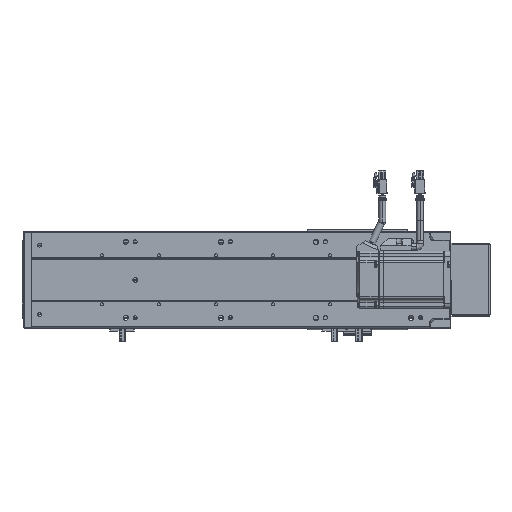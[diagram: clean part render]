
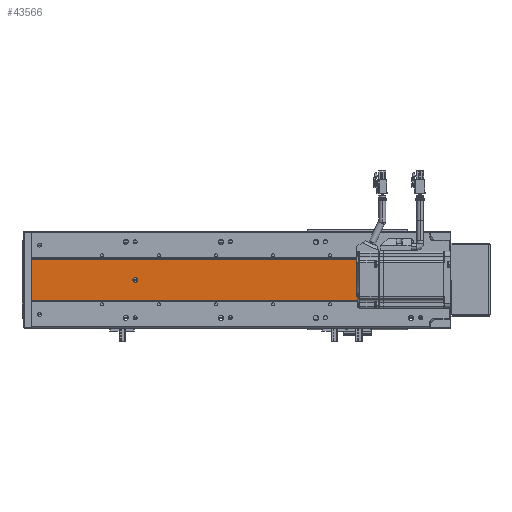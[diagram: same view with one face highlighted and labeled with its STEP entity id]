
A CAD part, front view. The second image highlights one B-rep face of the part: STEP entity #43566.
In plain terms, the highlighted planar face has unit normal (0, -1, 0).
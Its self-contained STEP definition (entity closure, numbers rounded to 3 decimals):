
#5576 = CARTESIAN_POINT ( 'NONE',  ( 118.817, 89.548, 419.698 ) ) ;
#5678 = CARTESIAN_POINT ( 'NONE',  ( 161.989, 89.548, 0. ) ) ;
#5722 = CARTESIAN_POINT ( 'NONE',  ( 118.817, 89.548, 426.302 ) ) ;
#5744 = CARTESIAN_POINT ( 'NONE',  ( 118.817, 89.548, 439. ) ) ;
#5764 = CARTESIAN_POINT ( 'NONE',  ( 161.989, 89.548, 439. ) ) ;
#5802 = CARTESIAN_POINT ( 'NONE',  ( 118.817, 89.548, 0. ) ) ;
#5806 = CARTESIAN_POINT ( 'NONE',  ( 118.817, 89.548, 429.698 ) ) ;
#6873 = CARTESIAN_POINT ( 'NONE',  ( 118.817, 89.548, 436.302 ) ) ;
#10917 = DIRECTION ( 'NONE',  ( 0., 0., -1. ) ) ;
#10944 = CARTESIAN_POINT ( 'NONE',  ( 161.989, 89.548, 439. ) ) ;
#11014 = CARTESIAN_POINT ( 'NONE',  ( 118.817, 89.548, 439. ) ) ;
#11015 = CARTESIAN_POINT ( 'NONE',  ( 161.989, 89.548, 0. ) ) ;
#11017 = DIRECTION ( 'NONE',  ( 0., 0., -1. ) ) ;
#11043 = DIRECTION ( 'NONE',  ( 1., 0., 0. ) ) ;
#11048 = CARTESIAN_POINT ( 'NONE',  ( 115.403, 89.548, 433. ) ) ;
#11052 = DIRECTION ( 'NONE',  ( -1., 0., 0. ) ) ;
#11056 = CARTESIAN_POINT ( 'NONE',  ( 140.403, 89.548, 409. ) ) ;
#11060 = DIRECTION ( 'NONE',  ( 0., 1., 0. ) ) ;
#11064 = CARTESIAN_POINT ( 'NONE',  ( 115.403, 89.548, 423. ) ) ;
#11065 = DIRECTION ( 'NONE',  ( 0., -1., 0. ) ) ;
#11069 = DIRECTION ( 'NONE',  ( 0., 1., 0. ) ) ;
#11076 = DIRECTION ( 'NONE',  ( 1., 0., 0. ) ) ;
#11081 = DIRECTION ( 'NONE',  ( -1., 0., 0. ) ) ;
#11083 = CARTESIAN_POINT ( 'NONE',  ( 140.403, 89.548, 109. ) ) ;
#11114 = DIRECTION ( 'NONE',  ( 1., 0., 0. ) ) ;
#11123 = DIRECTION ( 'NONE',  ( 0., -1., 0. ) ) ;
#11699 = EDGE_CURVE ( 'NONE', #72541, #72501, #33224, .T. ) ;
#12162 = EDGE_CURVE ( 'NONE', #72501, #71986, #22711, .T. ) ;
#12184 = EDGE_CURVE ( 'NONE', #72443, #72400, #22625, .T. ) ;
#12190 = EDGE_CURVE ( 'NONE', #72541, #84155, #22661, .T. ) ;
#12214 = EDGE_CURVE ( 'NONE', #72315, #72299, #22715, .T. ) ;
#12220 = EDGE_CURVE ( 'NONE', #84155, #72525, #22688, .T. ) ;
#12222 = EDGE_CURVE ( 'NONE', #72461, #72398, #22646, .T. ) ;
#12241 = EDGE_CURVE ( 'NONE', #72300, #72276, #22902, .T. ) ;
#22625 = LINE ( 'NONE', #11015, #22780 ) ;
#22646 = CIRCLE ( 'NONE', #31158, 4.75 ) ;
#22661 = LINE ( 'NONE', #11014, #22741 ) ;
#22688 = CIRCLE ( 'NONE', #31229, 4.75 ) ;
#22711 = LINE ( 'NONE', #10944, #22791 ) ;
#22715 = CIRCLE ( 'NONE', #31208, 2.5 ) ;
#22741 = VECTOR ( 'NONE', #11017, 1000. ) ;
#22780 = VECTOR ( 'NONE', #11043, 1000. ) ;
#22791 = VECTOR ( 'NONE', #10917, 1000. ) ;
#22902 = CIRCLE ( 'NONE', #31134, 2.5 ) ;
#25568 = EDGE_CURVE ( 'NONE', #72108, #71986, #99872, .T. ) ;
#25574 = EDGE_CURVE ( 'NONE', #71999, #72048, #99900, .T. ) ;
#25717 = EDGE_CURVE ( 'NONE', #72299, #72315, #100072, .T. ) ;
#25725 = EDGE_CURVE ( 'NONE', #72276, #72300, #100082, .T. ) ;
#25818 = EDGE_CURVE ( 'NONE', #72525, #72461, #26744, .T. ) ;
#25823 = EDGE_CURVE ( 'NONE', #71999, #72400, #26712, .T. ) ;
#25826 = EDGE_CURVE ( 'NONE', #72398, #72443, #26713, .T. ) ;
#25856 = EDGE_CURVE ( 'NONE', #72108, #72048, #26691, .T. ) ;
#26691 = LINE ( 'NONE', #28576, #26702 ) ;
#26699 = VECTOR ( 'NONE', #28478, 1000. ) ;
#26702 = VECTOR ( 'NONE', #28556, 1000. ) ;
#26712 = LINE ( 'NONE', #28414, #26795 ) ;
#26713 = LINE ( 'NONE', #28467, #26699 ) ;
#26744 = LINE ( 'NONE', #28448, #26765 ) ;
#26765 = VECTOR ( 'NONE', #28423, 1000. ) ;
#26795 = VECTOR ( 'NONE', #28495, 1000. ) ;
#28414 = CARTESIAN_POINT ( 'NONE',  ( 161.989, 89.548, 439. ) ) ;
#28423 = DIRECTION ( 'NONE',  ( 0., 0., -1. ) ) ;
#28448 = CARTESIAN_POINT ( 'NONE',  ( 118.817, 89.548, 439. ) ) ;
#28467 = CARTESIAN_POINT ( 'NONE',  ( 118.817, 89.548, 439. ) ) ;
#28478 = DIRECTION ( 'NONE',  ( 0., 0., -1. ) ) ;
#28495 = DIRECTION ( 'NONE',  ( 0., 0., -1. ) ) ;
#28556 = DIRECTION ( 'NONE',  ( 0., 0., -1. ) ) ;
#28576 = CARTESIAN_POINT ( 'NONE',  ( 161.989, 89.548, 439. ) ) ;
#29598 = CARTESIAN_POINT ( 'NONE',  ( 161.989, 89.548, 439. ) ) ;
#29623 = DIRECTION ( 'NONE',  ( 1., 0., 0. ) ) ;
#30128 = DIRECTION ( 'NONE',  ( 1., 0., 0. ) ) ;
#30134 = DIRECTION ( 'NONE',  ( 0., -1., 0. ) ) ;
#30138 = CARTESIAN_POINT ( 'NONE',  ( 140.403, 89.548, 409. ) ) ;
#30161 = DIRECTION ( 'NONE',  ( 1., 0., 0. ) ) ;
#30168 = CARTESIAN_POINT ( 'NONE',  ( 140.403, 89.548, 109. ) ) ;
#30169 = DIRECTION ( 'NONE',  ( 0., -1., 0. ) ) ;
#30761 = DIRECTION ( 'NONE',  ( -1., 0., 0. ) ) ;
#30768 = DIRECTION ( 'NONE',  ( 0., 1., 0. ) ) ;
#30776 = CARTESIAN_POINT ( 'NONE',  ( 165.403, 89.548, 433. ) ) ;
#30781 = DIRECTION ( 'NONE',  ( 0., 1., 0. ) ) ;
#30797 = CARTESIAN_POINT ( 'NONE',  ( 165.403, 89.548, 423. ) ) ;
#30811 = DIRECTION ( 'NONE',  ( -1., 0., 0. ) ) ;
#31134 = AXIS2_PLACEMENT_3D ( 'NONE', #11083, #11123, #11114 ) ;
#31158 = AXIS2_PLACEMENT_3D ( 'NONE', #11064, #11060, #11081 ) ;
#31208 = AXIS2_PLACEMENT_3D ( 'NONE', #11056, #11065, #11076 ) ;
#31229 = AXIS2_PLACEMENT_3D ( 'NONE', #11048, #11069, #11052 ) ;
#33224 = LINE ( 'NONE', #29598, #33307 ) ;
#33307 = VECTOR ( 'NONE', #29623, 1000. ) ;
#33897 = EDGE_LOOP ( 'NONE', ( #100892, #100873, #100885, #100840, #101000, #100899, #101016, #100853, #100831, #100834, #100878, #100945 ) ) ;
#33919 = EDGE_LOOP ( 'NONE', ( #100842, #100844 ) ) ;
#33927 = EDGE_LOOP ( 'NONE', ( #100728, #100746 ) ) ;
#42134 = CARTESIAN_POINT ( 'NONE',  ( 161.989, 89.548, 419.698 ) ) ;
#42140 = CARTESIAN_POINT ( 'NONE',  ( 161.989, 89.548, 426.302 ) ) ;
#42166 = CARTESIAN_POINT ( 'NONE',  ( 161.989, 89.548, 436.302 ) ) ;
#42223 = CARTESIAN_POINT ( 'NONE',  ( 161.989, 89.548, 429.698 ) ) ;
#42400 = CARTESIAN_POINT ( 'NONE',  ( 142.903, 89.548, 409. ) ) ;
#42402 = CARTESIAN_POINT ( 'NONE',  ( 137.903, 89.548, 109. ) ) ;
#42467 = CARTESIAN_POINT ( 'NONE',  ( 137.903, 89.548, 409. ) ) ;
#42489 = CARTESIAN_POINT ( 'NONE',  ( 142.903, 89.548, 109. ) ) ;
#43566 = ADVANCED_FACE ( 'NONE', ( #85765, #85720, #85742 ), #80576, .F. ) ;
#59785 = AXIS2_PLACEMENT_3D ( 'NONE', #30776, #30768, #30761 ) ;
#59791 = AXIS2_PLACEMENT_3D ( 'NONE', #30797, #30781, #30811 ) ;
#59819 = AXIS2_PLACEMENT_3D ( 'NONE', #30138, #30134, #30128 ) ;
#59827 = AXIS2_PLACEMENT_3D ( 'NONE', #30168, #30169, #30161 ) ;
#60497 = AXIS2_PLACEMENT_3D ( 'NONE', #80585, #80586, #80540 ) ;
#71986 = VERTEX_POINT ( 'NONE', #42166 ) ;
#71999 = VERTEX_POINT ( 'NONE', #42134 ) ;
#72048 = VERTEX_POINT ( 'NONE', #42140 ) ;
#72108 = VERTEX_POINT ( 'NONE', #42223 ) ;
#72276 = VERTEX_POINT ( 'NONE', #42402 ) ;
#72299 = VERTEX_POINT ( 'NONE', #42467 ) ;
#72300 = VERTEX_POINT ( 'NONE', #42489 ) ;
#72315 = VERTEX_POINT ( 'NONE', #42400 ) ;
#72398 = VERTEX_POINT ( 'NONE', #5576 ) ;
#72400 = VERTEX_POINT ( 'NONE', #5678 ) ;
#72443 = VERTEX_POINT ( 'NONE', #5802 ) ;
#72461 = VERTEX_POINT ( 'NONE', #5722 ) ;
#72501 = VERTEX_POINT ( 'NONE', #5764 ) ;
#72525 = VERTEX_POINT ( 'NONE', #5806 ) ;
#72541 = VERTEX_POINT ( 'NONE', #5744 ) ;
#80540 = DIRECTION ( 'NONE',  ( -1., 0., 0. ) ) ;
#80576 = PLANE ( 'NONE',  #60497 ) ;
#80585 = CARTESIAN_POINT ( 'NONE',  ( 161.989, 89.548, 439. ) ) ;
#80586 = DIRECTION ( 'NONE',  ( 0., 1., 0. ) ) ;
#84155 = VERTEX_POINT ( 'NONE', #6873 ) ;
#85720 = FACE_BOUND ( 'NONE', #33927, .T. ) ;
#85742 = FACE_OUTER_BOUND ( 'NONE', #33897, .T. ) ;
#85765 = FACE_BOUND ( 'NONE', #33919, .T. ) ;
#99872 = CIRCLE ( 'NONE', #59785, 4.75 ) ;
#99900 = CIRCLE ( 'NONE', #59791, 4.75 ) ;
#100072 = CIRCLE ( 'NONE', #59819, 2.5 ) ;
#100082 = CIRCLE ( 'NONE', #59827, 2.5 ) ;
#100728 = ORIENTED_EDGE ( 'NONE', *, *, #12241, .F. ) ;
#100746 = ORIENTED_EDGE ( 'NONE', *, *, #25725, .F. ) ;
#100831 = ORIENTED_EDGE ( 'NONE', *, *, #25826, .T. ) ;
#100834 = ORIENTED_EDGE ( 'NONE', *, *, #12184, .T. ) ;
#100840 = ORIENTED_EDGE ( 'NONE', *, *, #11699, .F. ) ;
#100842 = ORIENTED_EDGE ( 'NONE', *, *, #12214, .F. ) ;
#100844 = ORIENTED_EDGE ( 'NONE', *, *, #25717, .F. ) ;
#100853 = ORIENTED_EDGE ( 'NONE', *, *, #12222, .T. ) ;
#100873 = ORIENTED_EDGE ( 'NONE', *, *, #25568, .T. ) ;
#100878 = ORIENTED_EDGE ( 'NONE', *, *, #25823, .F. ) ;
#100885 = ORIENTED_EDGE ( 'NONE', *, *, #12162, .F. ) ;
#100892 = ORIENTED_EDGE ( 'NONE', *, *, #25856, .F. ) ;
#100899 = ORIENTED_EDGE ( 'NONE', *, *, #12220, .T. ) ;
#100945 = ORIENTED_EDGE ( 'NONE', *, *, #25574, .T. ) ;
#101000 = ORIENTED_EDGE ( 'NONE', *, *, #12190, .T. ) ;
#101016 = ORIENTED_EDGE ( 'NONE', *, *, #25818, .T. ) ;
